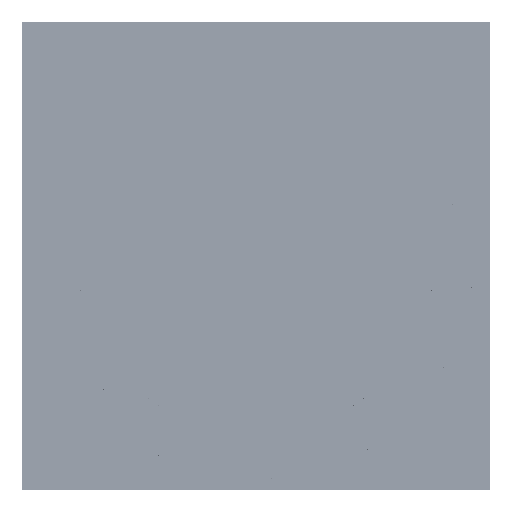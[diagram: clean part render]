
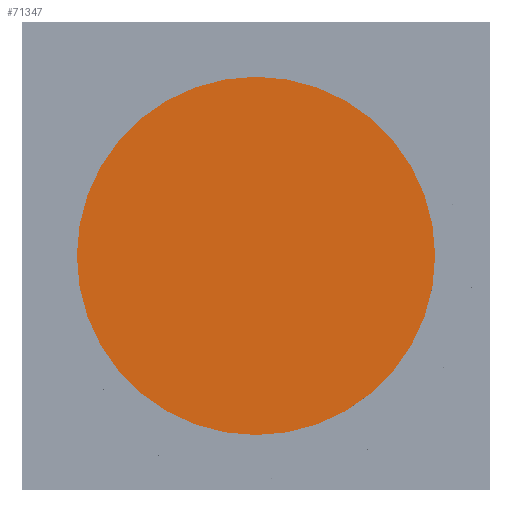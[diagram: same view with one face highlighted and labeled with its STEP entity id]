
A CAD part, top view. The second image highlights one B-rep face of the part: STEP entity #71347.
In plain terms, the highlighted planar face has unit normal (0, 0, 1).
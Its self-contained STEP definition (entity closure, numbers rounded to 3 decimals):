
#10129=PLANE('',#76490);
#14193=FACE_OUTER_BOUND('',#19185,.T.);
#19185=EDGE_LOOP('',(#46241));
#25907=CIRCLE('',#76488,18.);
#30091=VERTEX_POINT('',#106207);
#36599=EDGE_CURVE('',#30091,#30091,#25907,.T.);
#46241=ORIENTED_EDGE('',*,*,#36599,.T.);
#71347=ADVANCED_FACE('',(#14193),#10129,.T.);
#76488=AXIS2_PLACEMENT_3D('',#106208,#85486,#85487);
#76490=AXIS2_PLACEMENT_3D('',#106210,#85490,#85491);
#85486=DIRECTION('center_axis',(0.,0.,
1.));
#85487=DIRECTION('ref_axis',(-1.,0.,0.));
#85490=DIRECTION('center_axis',(0.,0.,
1.));
#85491=DIRECTION('ref_axis',(-1.,0.,0.));
#106207=CARTESIAN_POINT('',(18.,0.,12.));
#106208=CARTESIAN_POINT('Origin',(0.,0.,12.));
#106210=CARTESIAN_POINT('Origin',(0.,0.,12.));
